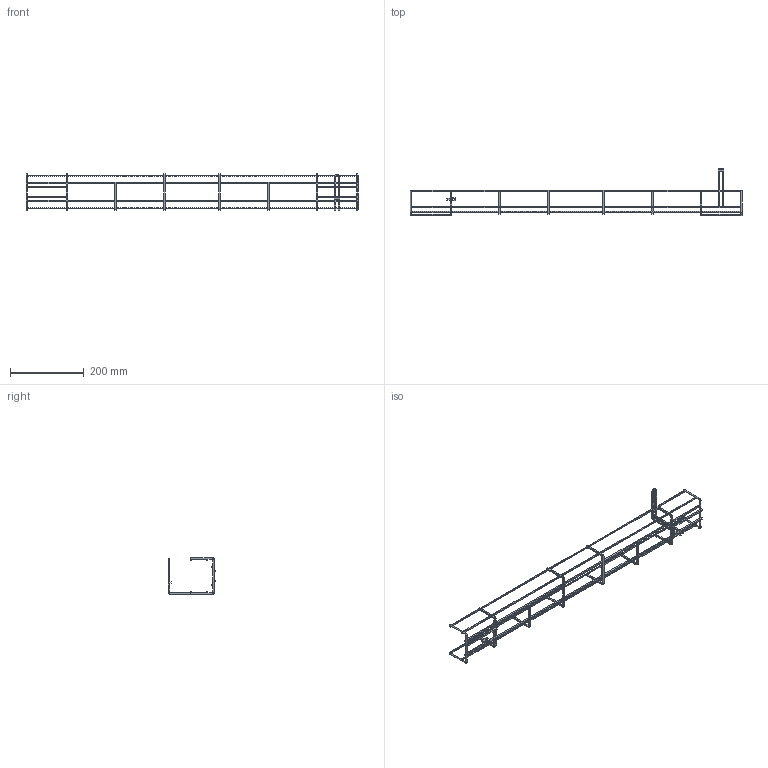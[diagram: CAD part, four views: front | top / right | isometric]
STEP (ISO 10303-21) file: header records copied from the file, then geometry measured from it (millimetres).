
FILE_DESCRIPTION(/* description */ (''),/* implementation_level */ '2;1');
FILE_NAME(/* name */ 'C:/Users/jon.gardner/Desktop/QikTray-1250.step',/* time_stamp */ '2019-10-08T12:58:54+01:00',/* author */ (''),/* organization */ (''),/* preprocessor_version */ 'ST-DEVELOPER v18',/* originating_system */ 'Autodesk Translation Framework v8.6.0.1094',/* authorisation */ '');
FILE_SCHEMA (('AUTOMOTIVE_DESIGN { 1 0 10303 214 3 1 1 }'));
Length unit declared in the file: millimetre
Products named in the file (1): PF0537 - 900 - Basket no bracket - Issue F
Bounding box: 900 x 129.5 x 99 mm (x, y, z)
Volume: 98963.7 mm3; surface area: 109365.5 mm2
Topology: 3 solids, 3 shells, 306 faces, 840 edges, 490 vertices
Faces by surface type: plane 264, cylinder 38, torus 4
Full cylindrical faces by diameter (mm): 1.7 x1, 4 x2, 5 x1
Entity records: 9454 total; most frequent: ORIENTED_EDGE 1680, CARTESIAN_POINT 1637, DIRECTION 1538, EDGE_CURVE 840, LINE 756, VECTOR 756, VERTEX_POINT 490, AXIS2_PLACEMENT_3D 391
